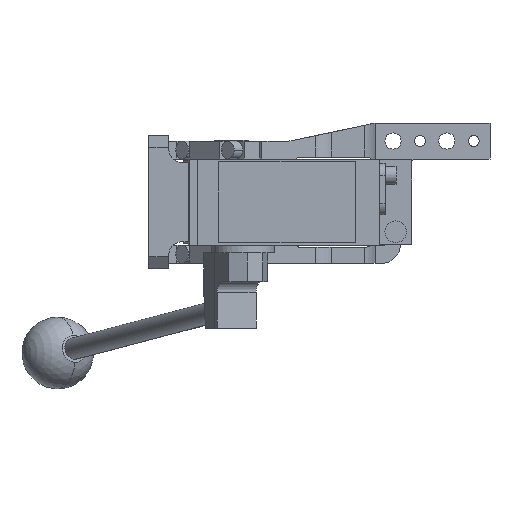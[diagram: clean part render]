
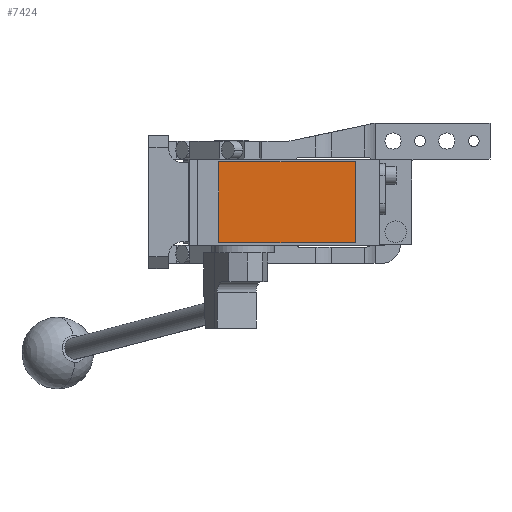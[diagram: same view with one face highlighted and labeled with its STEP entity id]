
A CAD part, front view. The second image highlights one B-rep face of the part: STEP entity #7424.
In plain terms, the highlighted planar face has unit normal (0, -1, 0).
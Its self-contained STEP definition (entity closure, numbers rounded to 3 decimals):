
#111 = EDGE_CURVE ( 'NONE', #9054, #11349, #1072, .T. ) ;
#1023 = EDGE_LOOP ( 'NONE', ( #2470, #15754, #12479, #4535 ) ) ;
#1072 = LINE ( 'NONE', #1240, #3701 ) ;
#1236 = CARTESIAN_POINT ( 'NONE',  ( -7., -280.5, -22.5 ) ) ;
#1240 = CARTESIAN_POINT ( 'NONE',  ( -7., -280.5, -22.5 ) ) ;
#1848 = DIRECTION ( 'NONE',  ( 0., 0., 1. ) ) ;
#1860 = DIRECTION ( 'NONE',  ( 0., 0., -1. ) ) ;
#1977 = VECTOR ( 'NONE', #1848, 1000. ) ;
#2470 = ORIENTED_EDGE ( 'NONE', *, *, #12450, .T. ) ;
#3221 = CARTESIAN_POINT ( 'NONE',  ( 0., -280.5, 0. ) ) ;
#3579 = CARTESIAN_POINT ( 'NONE',  ( -7., -280.5, 22.5 ) ) ;
#3701 = VECTOR ( 'NONE', #11220, 1000. ) ;
#3911 = CARTESIAN_POINT ( 'NONE',  ( -7., -280.5, 22.5 ) ) ;
#3966 = AXIS2_PLACEMENT_3D ( 'NONE', #3221, #4095, #1860 ) ;
#4095 = DIRECTION ( 'NONE',  ( 0., -1., 0. ) ) ;
#4176 = FACE_OUTER_BOUND ( 'NONE', #1023, .T. ) ;
#4229 = VERTEX_POINT ( 'NONE', #9154 ) ;
#4535 = ORIENTED_EDGE ( 'NONE', *, *, #8926, .T. ) ;
#5572 = LINE ( 'NONE', #10533, #1977 ) ;
#6034 = DIRECTION ( 'NONE',  ( -1., 0., 0. ) ) ;
#6230 = LINE ( 'NONE', #3911, #9808 ) ;
#7424 = ADVANCED_FACE ( 'NONE', ( #4176 ), #13150, .T. ) ;
#7867 = DIRECTION ( 'NONE',  ( 0., 0., -1. ) ) ;
#8251 = CARTESIAN_POINT ( 'NONE',  ( 69., -280.5, -22.5 ) ) ;
#8926 = EDGE_CURVE ( 'NONE', #4229, #9909, #11963, .T. ) ;
#9054 = VERTEX_POINT ( 'NONE', #1236 ) ;
#9154 = CARTESIAN_POINT ( 'NONE',  ( 69., -280.5, 22.5 ) ) ;
#9640 = EDGE_CURVE ( 'NONE', #11349, #4229, #5572, .T. ) ;
#9808 = VECTOR ( 'NONE', #7867, 1000. ) ;
#9909 = VERTEX_POINT ( 'NONE', #11804 ) ;
#10533 = CARTESIAN_POINT ( 'NONE',  ( 69., -280.5, 22.5 ) ) ;
#11220 = DIRECTION ( 'NONE',  ( 1., 0., 0. ) ) ;
#11349 = VERTEX_POINT ( 'NONE', #8251 ) ;
#11804 = CARTESIAN_POINT ( 'NONE',  ( -7., -280.5, 22.5 ) ) ;
#11963 = LINE ( 'NONE', #3579, #13056 ) ;
#12450 = EDGE_CURVE ( 'NONE', #9909, #9054, #6230, .T. ) ;
#12479 = ORIENTED_EDGE ( 'NONE', *, *, #9640, .T. ) ;
#13056 = VECTOR ( 'NONE', #6034, 1000. ) ;
#13150 = PLANE ( 'NONE',  #3966 ) ;
#15754 = ORIENTED_EDGE ( 'NONE', *, *, #111, .T. ) ;
